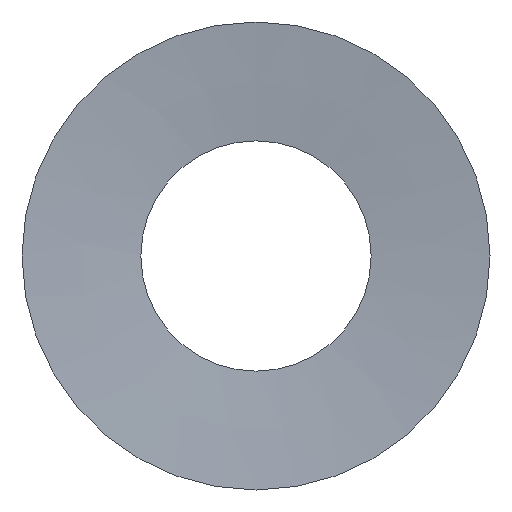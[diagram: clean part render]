
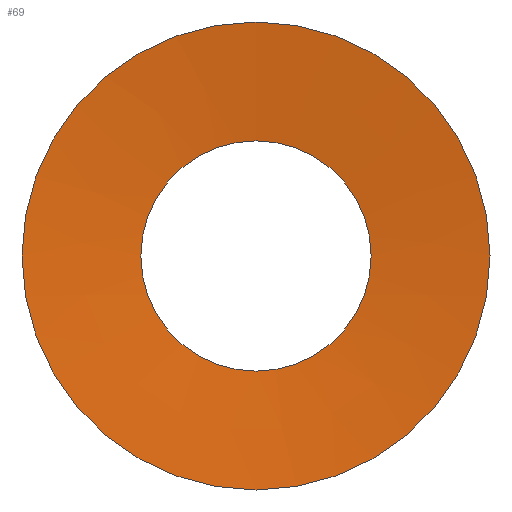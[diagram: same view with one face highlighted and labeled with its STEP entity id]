
A CAD part, front view. The second image highlights one B-rep face of the part: STEP entity #69.
In plain terms, the highlighted conical face has half-angle 83.994 degrees and reference radius 23.5 mm.
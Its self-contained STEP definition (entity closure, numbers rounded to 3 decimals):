
#19=FACE_OUTER_BOUND('',#23,.T.);
#23=EDGE_LOOP('',(#57,#58,#59,#60));
#27=LINE('',#137,#31);
#31=VECTOR('',#118,23.5);
#35=CIRCLE('',#98,15.5);
#36=CIRCLE('',#100,31.5);
#39=VERTEX_POINT('',#132);
#40=VERTEX_POINT('',#136);
#45=EDGE_CURVE('',#39,#39,#35,.T.);
#46=EDGE_CURVE('',#39,#40,#27,.T.);
#47=EDGE_CURVE('',#40,#40,#36,.T.);
#57=ORIENTED_EDGE('',*,*,#45,.T.);
#58=ORIENTED_EDGE('',*,*,#46,.T.);
#59=ORIENTED_EDGE('',*,*,#47,.F.);
#60=ORIENTED_EDGE('',*,*,#46,.F.);
#66=CONICAL_SURFACE('',#99,23.5,1.466);
#69=ADVANCED_FACE('',(#19),#66,.F.);
#98=AXIS2_PLACEMENT_3D('',#134,#114,#115);
#99=AXIS2_PLACEMENT_3D('',#135,#116,#117);
#100=AXIS2_PLACEMENT_3D('',#138,#119,#120);
#114=DIRECTION('center_axis',(0.,1.,0.));
#115=DIRECTION('ref_axis',(1.,0.,0.));
#116=DIRECTION('center_axis',(0.,-1.,0.));
#117=DIRECTION('ref_axis',(0.,0.,-1.));
#118=DIRECTION('',(0.,-0.105,0.995));
#119=DIRECTION('center_axis',(0.,1.,0.));
#120=DIRECTION('ref_axis',(1.,0.,0.));
#132=CARTESIAN_POINT('',(0.,1.683,15.5));
#134=CARTESIAN_POINT('Origin',(0.,1.683,0.));
#135=CARTESIAN_POINT('Origin',(0.,0.842,0.));
#136=CARTESIAN_POINT('',(0.,0.,31.5));
#137=CARTESIAN_POINT('',(0.,0.842,23.5));
#138=CARTESIAN_POINT('Origin',(0.,0.,0.));
